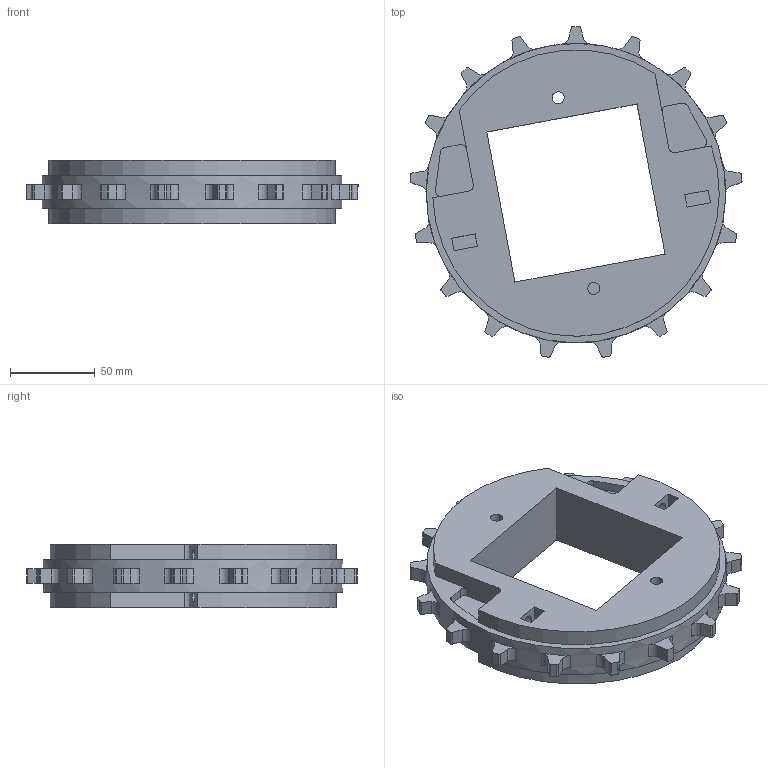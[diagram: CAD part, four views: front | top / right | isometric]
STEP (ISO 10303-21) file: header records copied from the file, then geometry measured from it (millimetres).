
FILE_DESCRIPTION((''),'2;1');
FILE_NAME('S1200_SPLIT_79X35_90_SQ','2008-12-12T',('jmumphre'),(''),'PRO/ENGINEER BY PARAMETRIC TECHNOLOGY CORPORATION, 2008150','PRO/ENGINEER BY PARAMETRIC TECHNOLOGY CORPORATION, 2008150','');
FILE_SCHEMA(('CONFIG_CONTROL_DESIGN'));
Length unit declared in the file: inch
Products named in the file (1): S1200_SPLIT_79X35_90_SQ
Bounding box: 195.7 x 194.88 x 37.59 mm (x, y, z)
Volume: 536085.7 mm3; surface area: 79592.7 mm2
Topology: 1 solids, 1 shells, 236 faces, 630 edges, 420 vertices
Faces by surface type: plane 134, cylinder 102
Entity records: 7496 total; most frequent: DIRECTION 1340, CARTESIAN_POINT 1286, ORIENTED_EDGE 1260, EDGE_CURVE 630, AXIS2_PLACEMENT_3D 474, VERTEX_POINT 420, VECTOR 392, LINE 392
